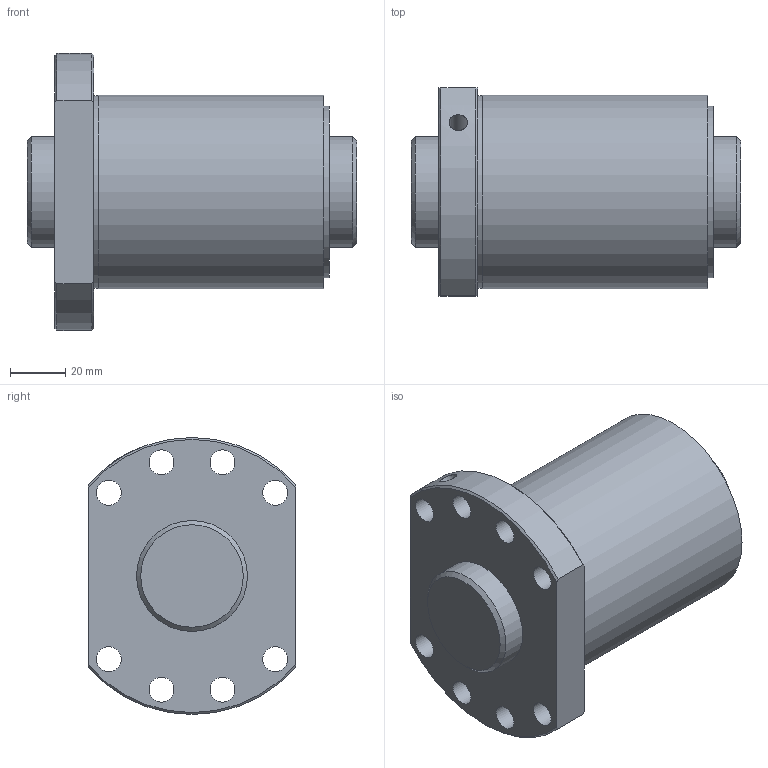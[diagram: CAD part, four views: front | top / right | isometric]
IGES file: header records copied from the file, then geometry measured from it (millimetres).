
Start section: Data from Parasolid IGES Translator 26.0.171, Copyright(c) 2006 Siemens PLM Software. All Rights Reserved.
Global section: file name: SDA4030VA-3G0+119LC0(0G000).igs; native system: By Siemens PLM Incorporated; preprocessor: XPlus GENERIC/IGES 26.0.171; author: Noname; organization: Noname; date: 20240528.114251; units: millimetre
Bounding box: 119 x 75 x 100 mm (x, y, z)
Surface area: 66104.8 mm2 (no closed solid volume)
Topology: 0 solids, 0 shells, 33 faces, 154 edges, 134 vertices
Faces by surface type: revolution 24, extrusion 9
